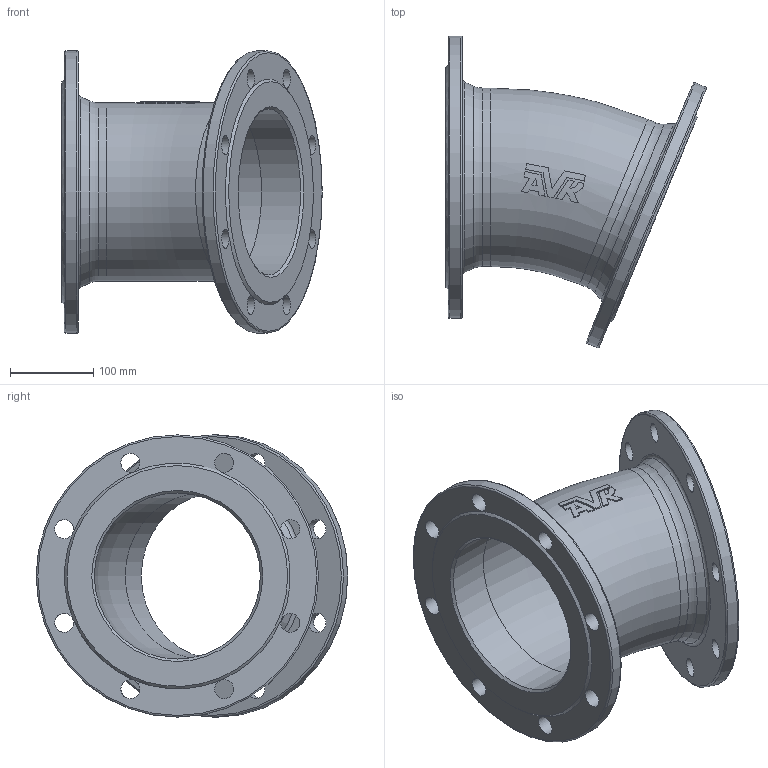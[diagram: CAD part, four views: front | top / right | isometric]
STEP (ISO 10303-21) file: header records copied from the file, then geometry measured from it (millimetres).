
FILE_DESCRIPTION (( 'STEP AP203' ), '1' );
FILE_NAME ('O_712_0210_DN200_0X_REV01.step', '2024-08-15T12:07:22', ( '' ), ( '' ), 'SwSTEP 2.0', 'SolidWorks 2022', '' );
FILE_SCHEMA (( 'CONFIG_CONTROL_DESIGN' ));
Length unit declared in the file: millimetre
Products named in the file (1): O_712_0210_DN200_0X_REV01
Bounding box: 313.7 x 375.43 x 340 mm (x, y, z)
Volume: 3240010.1 mm3; surface area: 569835 mm2
Topology: 1 solids, 1 shells, 85 faces, 248 edges, 157 vertices
Faces by surface type: plane 41, cylinder 24, torus 14, cone 6
Full cylindrical faces by diameter (mm): 23 x16, 200 x2, 215 x2, 340 x2
Entity records: 2680 total; most frequent: CARTESIAN_POINT 705, ORIENTED_EDGE 370, DIRECTION 357, EDGE_CURVE 185, AXIS2_PLACEMENT_3D 160, EDGE_LOOP 149, VERTEX_POINT 132, FACE_OUTER_BOUND 117
